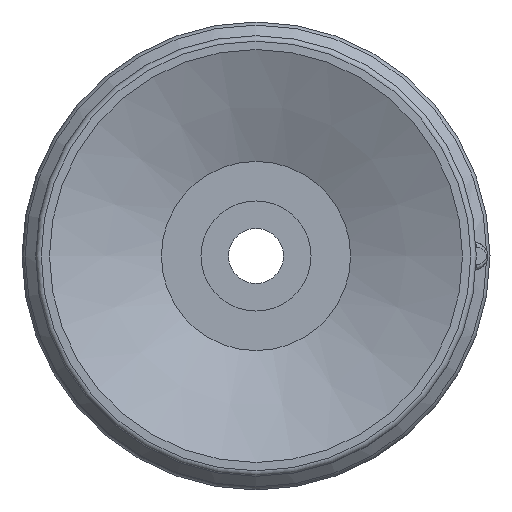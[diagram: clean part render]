
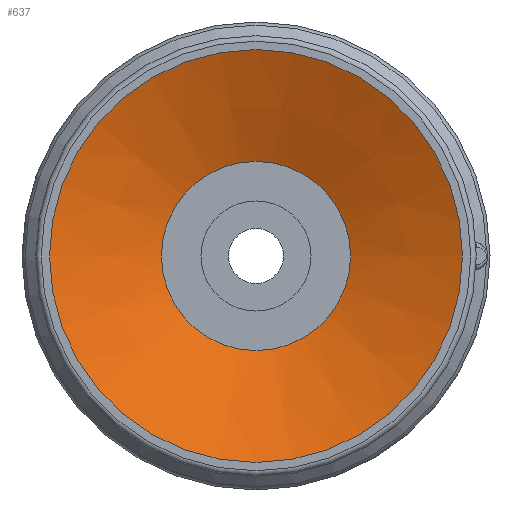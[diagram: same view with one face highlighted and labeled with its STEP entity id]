
A CAD part, front view. The second image highlights one B-rep face of the part: STEP entity #637.
In plain terms, the highlighted conical face has half-angle 67.5 degrees and reference radius 3.437 mm.
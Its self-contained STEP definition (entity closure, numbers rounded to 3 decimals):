
#637=ADVANCED_FACE('',(#896,#897),#898,.F.);
#896=FACE_BOUND('',#2190,.T.);
#897=FACE_OUTER_BOUND('',#2191,.T.);
#898=CONICAL_SURFACE('',#2192,3.437,1.178);
#2190=EDGE_LOOP('',(#2899));
#2191=EDGE_LOOP('',(#2900));
#2192=AXIS2_PLACEMENT_3D('',#2901,#2902,#2903);
#2899=ORIENTED_EDGE('',*,*,#3163,.F.);
#2900=ORIENTED_EDGE('',*,*,#3151,.T.);
#2901=CARTESIAN_POINT('',(0.0,0.0,1.683));
#2902=DIRECTION('',(0.0,0.,-1.0));
#2903=DIRECTION('',(0.0,1.0,0.));
#3151=EDGE_CURVE('',#3484,#3484,#3485,.T.);
#3163=EDGE_CURVE('',#3508,#3508,#3509,.T.);
#3484=VERTEX_POINT('',#4389);
#3485=CIRCLE('',#4390,7.5);
#3508=VERTEX_POINT('',#4413);
#3509=CIRCLE('',#4414,3.437);
#4389=CARTESIAN_POINT('',(-7.5,0.0,0.));
#4390=AXIS2_PLACEMENT_3D('',#4665,#4666,#4667);
#4413=CARTESIAN_POINT('',(-3.437,0.0,1.683));
#4414=AXIS2_PLACEMENT_3D('',#4701,#4702,#4703);
#4665=CARTESIAN_POINT('',(0.0,0.0,0.));
#4666=DIRECTION('',(0.0,0.,-1.0));
#4667=DIRECTION('',(0.0,1.0,0.));
#4701=CARTESIAN_POINT('',(0.0,0.0,1.683));
#4702=DIRECTION('',(0.0,0.,-1.0));
#4703=DIRECTION('',(0.0,1.0,0.));
